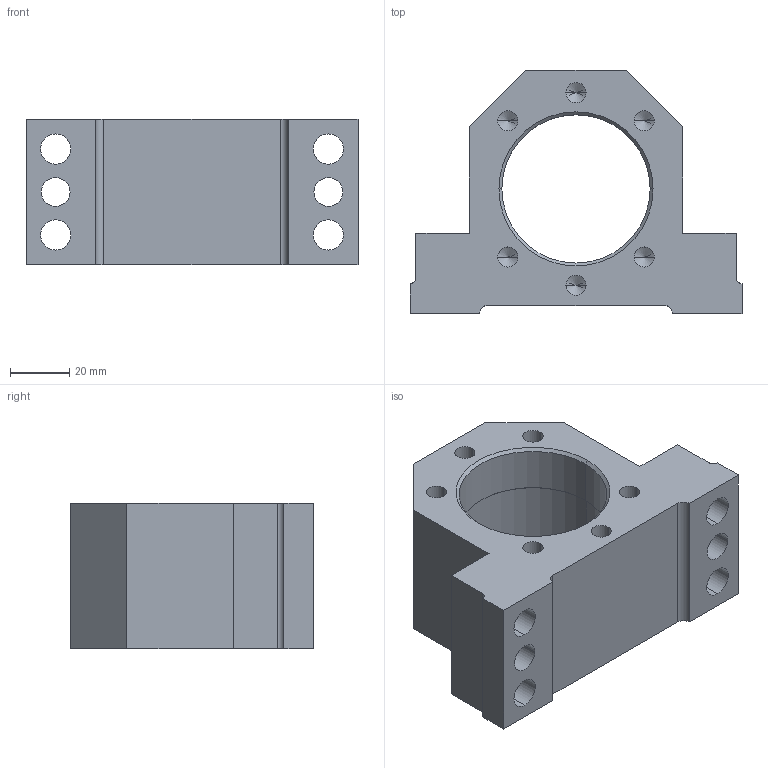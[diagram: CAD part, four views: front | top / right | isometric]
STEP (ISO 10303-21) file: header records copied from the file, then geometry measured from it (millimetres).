
FILE_DESCRIPTION (( 'STEP AP203' ), '1' );
FILE_NAME ('GFD-32.STEP', '2002-08-15T13:55:13', ( '.' ), ( '.' ), 'SwSTEP 2.0', 'SolidWorks 2001340', '' );
FILE_SCHEMA (( 'CONFIG_CONTROL_DESIGN' ));
Length unit declared in the file: millimetre
Products named in the file (1): GFD-32
Bounding box: 112 x 82 x 49 mm (x, y, z)
Volume: 195899.9 mm3; surface area: 42071.8 mm2
Topology: 1 solids, 1 shells, 63 faces, 166 edges, 100 vertices
Faces by surface type: cylinder 32, plane 17, cone 14
Entity records: 1975 total; most frequent: DIRECTION 348, CARTESIAN_POINT 318, ORIENTED_EDGE 308, EDGE_CURVE 154, AXIS2_PLACEMENT_3D 130, VERTEX_POINT 100, LINE 88, VECTOR 88
